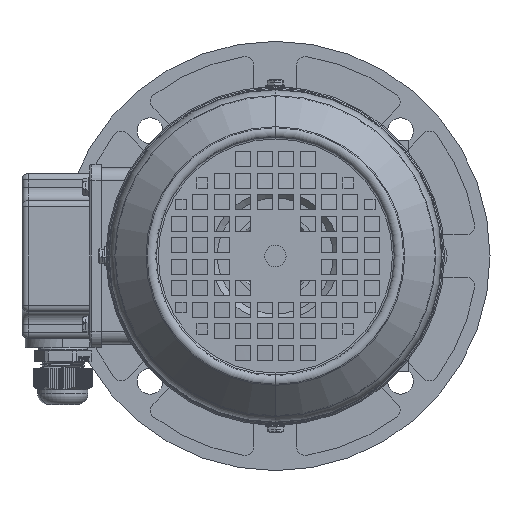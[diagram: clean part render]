
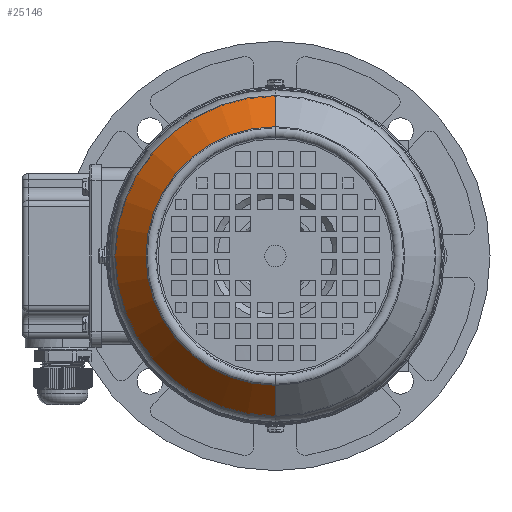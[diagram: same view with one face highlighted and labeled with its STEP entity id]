
A CAD part, left-side view. The second image highlights one B-rep face of the part: STEP entity #25146.
In plain terms, the highlighted conical face has half-angle 41.927 degrees and reference radius 77.3 mm.
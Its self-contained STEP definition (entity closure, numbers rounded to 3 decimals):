
#5 = LINE ( 'NONE', #37907, #30338 ) ;
#8528 = CARTESIAN_POINT ( 'NONE',  ( -56., 0., 77.3 ) ) ;
#9999 = DIRECTION ( 'NONE',  ( -1., 0., 0. ) ) ;
#10155 = ORIENTED_EDGE ( 'NONE', *, *, #57339, .T. ) ;
#11218 = CIRCLE ( 'NONE', #29278, 60.232 ) ;
#14337 = VECTOR ( 'NONE', #48690, 1000. ) ;
#14858 = CARTESIAN_POINT ( 'NONE',  ( -58.851, 0., 74.74 ) ) ;
#20386 = VERTEX_POINT ( 'NONE', #44660 ) ;
#25146 = ADVANCED_FACE ( 'NONE', ( #59646 ), #50806, .T. ) ;
#29278 = AXIS2_PLACEMENT_3D ( 'NONE', #99337, #9999, #75273 ) ;
#29527 = AXIS2_PLACEMENT_3D ( 'NONE', #61370, #53588, #95045 ) ;
#30338 = VECTOR ( 'NONE', #62577, 1000. ) ;
#30910 = VERTEX_POINT ( 'NONE', #14858 ) ;
#31884 = LINE ( 'NONE', #8528, #14337 ) ;
#32301 = VERTEX_POINT ( 'NONE', #52432 ) ;
#37907 = CARTESIAN_POINT ( 'NONE',  ( -56., 0., -77.3 ) ) ;
#44660 = CARTESIAN_POINT ( 'NONE',  ( -75.005, 0., 60.232 ) ) ;
#47508 = CIRCLE ( 'NONE', #29527, 74.74 ) ;
#48690 = DIRECTION ( 'NONE',  ( 0.744, 0., 0.668 ) ) ;
#50733 = ORIENTED_EDGE ( 'NONE', *, *, #90027, .F. ) ;
#50806 = CONICAL_SURFACE ( 'NONE', #100163, 77.3, 0.732 ) ;
#52432 = CARTESIAN_POINT ( 'NONE',  ( -58.851, 0., -74.74 ) ) ;
#53588 = DIRECTION ( 'NONE',  ( -1., 0., 0. ) ) ;
#57339 = EDGE_CURVE ( 'NONE', #30910, #32301, #47508, .T. ) ;
#59646 = FACE_OUTER_BOUND ( 'NONE', #81666, .T. ) ;
#61370 = CARTESIAN_POINT ( 'NONE',  ( -58.851, 0., 0. ) ) ;
#62577 = DIRECTION ( 'NONE',  ( 0.744, 0., -0.668 ) ) ;
#67622 = ORIENTED_EDGE ( 'NONE', *, *, #92559, .F. ) ;
#69064 = ORIENTED_EDGE ( 'NONE', *, *, #79826, .T. ) ;
#70596 = DIRECTION ( 'NONE',  ( 1., 0., 0. ) ) ;
#75273 = DIRECTION ( 'NONE',  ( 0., 0., 1. ) ) ;
#77794 = VERTEX_POINT ( 'NONE', #94227 ) ;
#79826 = EDGE_CURVE ( 'NONE', #20386, #30910, #31884, .T. ) ;
#81666 = EDGE_LOOP ( 'NONE', ( #67622, #69064, #10155, #50733 ) ) ;
#87506 = CARTESIAN_POINT ( 'NONE',  ( -56., 0., 0. ) ) ;
#90027 = EDGE_CURVE ( 'NONE', #77794, #32301, #5, .T. ) ;
#92559 = EDGE_CURVE ( 'NONE', #20386, #77794, #11218, .T. ) ;
#94227 = CARTESIAN_POINT ( 'NONE',  ( -75.005, 0., -60.232 ) ) ;
#95045 = DIRECTION ( 'NONE',  ( 0., 0., 1. ) ) ;
#99337 = CARTESIAN_POINT ( 'NONE',  ( -75.005, 0., 0. ) ) ;
#100163 = AXIS2_PLACEMENT_3D ( 'NONE', #87506, #70596, #103149 ) ;
#103149 = DIRECTION ( 'NONE',  ( 0., 0., -1. ) ) ;
